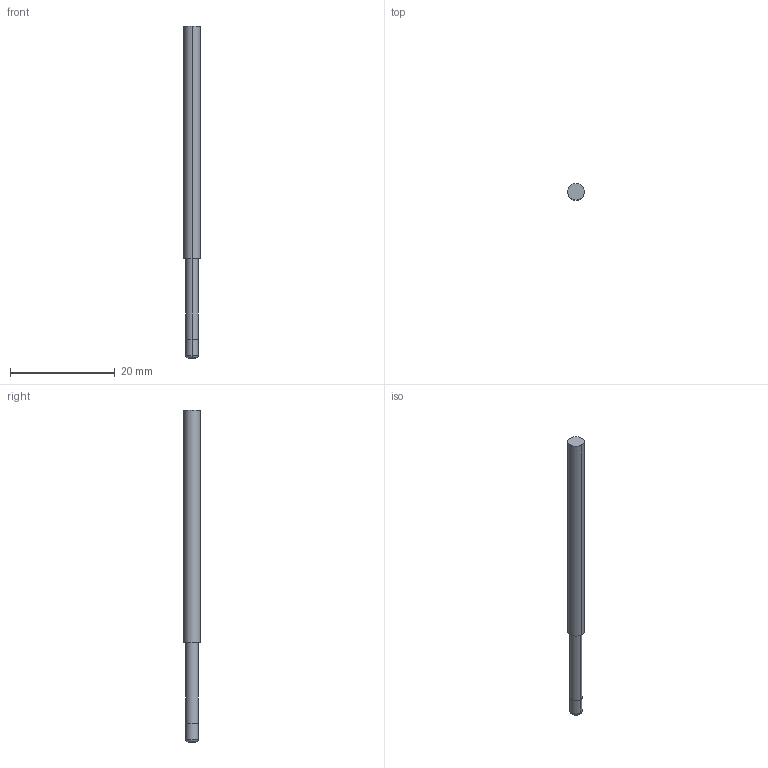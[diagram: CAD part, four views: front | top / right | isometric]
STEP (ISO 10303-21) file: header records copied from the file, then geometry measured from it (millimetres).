
FILE_DESCRIPTION((' '),'2;1');
FILE_NAME( '3MVS0938R.020N8AH.stp', '2026-01-21T19:26:11', (' '), ('--- Datakit www.datakit.com---'), ' Datakit CrossCadWare V2025.4 Sep 19 2025', 'Mastercam 2027', ' ');
FILE_SCHEMA(('AUTOMOTIVE_DESIGN { 1 0 10303 214 1 1 1 1 }'));
Length unit declared in the file: inch
Products named in the file (1): 3MVS0938R
Bounding box: 3.17 x 3.17 x 63.5 mm (x, y, z)
Volume: 436.5 mm3; surface area: 600 mm2
Topology: 1 solids, 1 shells, 11 faces, 20 edges, 12 vertices
Faces by surface type: cylinder 6, plane 3, torus 2
Entity records: 356 total; most frequent: DIRECTION 66, CARTESIAN_POINT 48, ORIENTED_EDGE 40, AXIS2_PLACEMENT_3D 30, EDGE_CURVE 20, CIRCLE 14, VERTEX_POINT 12, EDGE_LOOP 12
